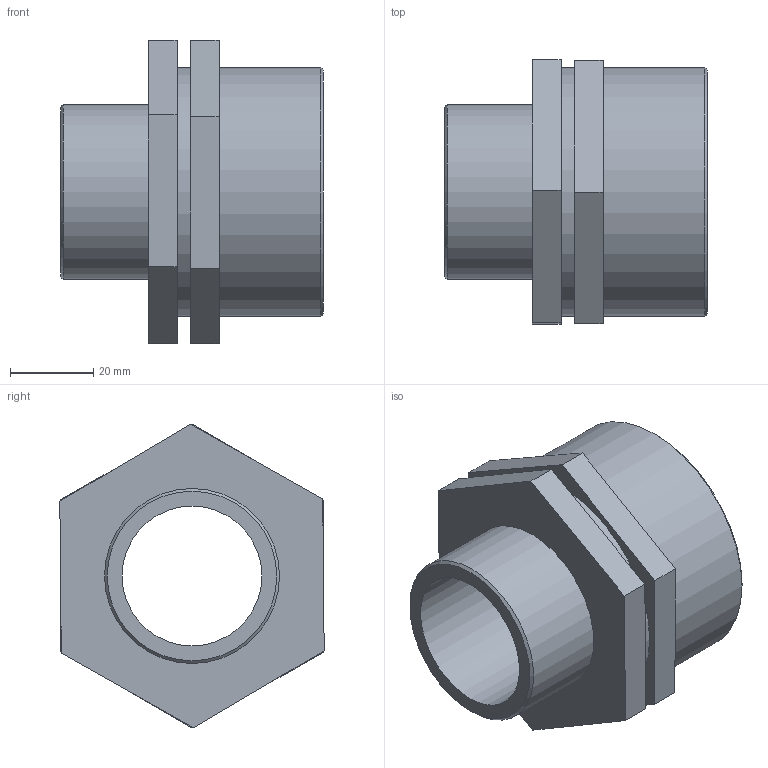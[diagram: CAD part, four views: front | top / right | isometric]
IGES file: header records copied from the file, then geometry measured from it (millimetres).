
Global section: file name: 050605020013_0506050200130A.ipt; native system: Autodesk Inventor 2015; preprocessor: unknown; author: KIM; date: 20170618.093237; units: millimetre
Bounding box: 63 x 63.34 x 72.75 mm (x, y, z)
Volume: 67773.6 mm3; surface area: 25538.3 mm2
Topology: 1 solids, 1 shells, 26 faces, 59 edges, 40 vertices
Faces by surface type: plane 19, cylinder 3, cone 2, revolution 2
Full cylindrical faces by diameter (mm): 41.91 x1, 59.614 x2
